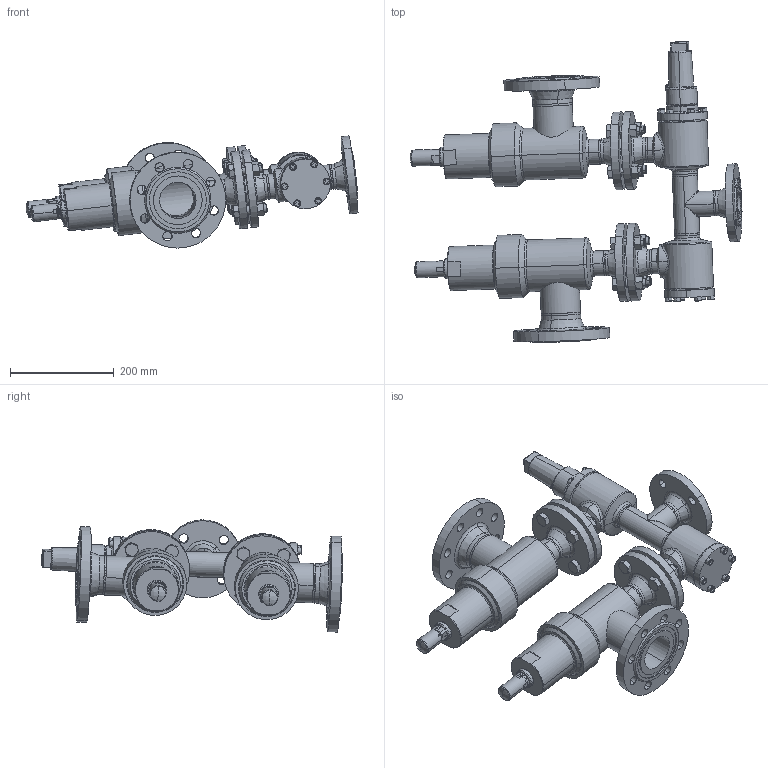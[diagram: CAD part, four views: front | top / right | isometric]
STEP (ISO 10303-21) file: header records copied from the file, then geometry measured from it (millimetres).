
FILE_DESCRIPTION (( 'STEP AP214' ), '1' );
FILE_NAME ('WVB-SVAA_1A5FL_DN40_DIN-FL.STEP', '2010-09-09T09:09:56', ( 'Eckhard Grams' ), ( 'AWP Kälte Klima Armaturen GmbH' ), 'SwSTEP 2.0', 'SolidWorks 2002296', '' );
FILE_SCHEMA (( 'AUTOMOTIVE_DESIGN' ));
Length unit declared in the file: millimetre
Products named in the file (31): WVB-SVAA_1A5FL_DN40_DIN-FL; SVAA 45620D14-DN40(65)_DIN; Gehkpl 45720E14-5030001; bead Geh,kpl 45720E14-1_Standard; Rohrstutzen-A 45700E13-5036004_DN40(65)_Standard; Flansch-DIN2635-Nut_PS40_DIN-Flansch-DN065_PS40-Nut; Geh 45700E14-5034004_DN40; bead Geh,kpl 45720E14-2_Standard; Flachdichtg-Alu-DN40; Haube 45700E14-5260003_DN40; Kappe SVA-SVU-ORV_DN10-40 (M27x1,5)_Standard; WVB23020D14-DN040_DIN-FL-N-F_PS40_Standard; WVB-R23000E15_Deck+Schr-DN40-50_Standard; Deckel23000E15-DN40-50_Standard; Kappe 16402-15_DN40-65 (M52x3)_Standard; AVB16300E15_Deck+Schr-DN40-50_Standard; Deckel16300E15-DN40-50_Standard; Zylinderschraube-DIN912_M 8x  25; Geh,kpl23020E14-DN040_DIN-FL-N-F_PS40_Standard; Flansch-DIN2635-Nut_PS40_DIN-Flansch-DN040_PS40-Nut; Geh,kpl23000E14-DN040_R1_PS40_Standard; bead23000-14-1_Standard; bead23000-14-2_Standard; T-Stück DIN2615_DN 40; Gehäuse23000E14-DN040_R1_PS40_Standard; Flansch-DIN2635-Feder_PS40_DIN-Flansch-DN040_PS40-Feder; bead23020-14-3_Standard; bead23020-14-2_Standard; bead23020-14-1_Standard; Sechskantschraube-DIN933_M16x 55; Sechskantmutter-DIN934_M16
Assembly tree (59 placements, depth 5):
  WVB-SVAA_1A5FL_DN40_DIN-FL
    Sechskantschraube-DIN933_M16x 55  x8
    Sechskantmutter-DIN934_M16  x8
    SVAA 45620D14-DN40(65)_DIN  x2
      Kappe SVA-SVU-ORV_DN10-40 (M27x1,5)_Standard
      Gehkpl 45720E14-5030001
        bead Geh,kpl 45720E14-1_Standard
        Geh 45700E14-5034004_DN40
        Flansch-DIN2635-Nut_PS40_DIN-Flansch-DN040_PS40-Nut
        bead Geh,kpl 45720E14-2_Standard
        Rohrstutzen-A 45700E13-5036004_DN40(65)_Standard
        Flansch-DIN2635-Nut_PS40_DIN-Flansch-DN065_PS40-Nut
      Flachdichtg-Alu-DN40
      Haube 45700E14-5260003_DN40
    WVB23020D14-DN040_DIN-FL-N-F_PS40_Standard
      WVB-R23000E15_Deck+Schr-DN40-50_Standard
        Zylinderschraube-DIN912_M 8x  25  x6
        Deckel23000E15-DN40-50_Standard
      AVB16300E15_Deck+Schr-DN40-50_Standard
        Zylinderschraube-DIN912_M 8x  25  x6
        Deckel16300E15-DN40-50_Standard
      Kappe 16402-15_DN40-65 (M52x3)_Standard
      Geh,kpl23020E14-DN040_DIN-FL-N-F_PS40_Standard
        bead23020-14-1_Standard
        Flansch-DIN2635-Nut_PS40_DIN-Flansch-DN040_PS40-Nut
        Flansch-DIN2635-Feder_PS40_DIN-Flansch-DN040_PS40-Feder  x2
        Geh,kpl23000E14-DN040_R1_PS40_Standard
          Gehäuse23000E14-DN040_R1_PS40_Standard  x2
          bead23000-14-1_Standard
          T-Stück DIN2615_DN 40
          bead23000-14-2_Standard
        bead23020-14-3_Standard
        bead23020-14-2_Standard
Bounding box: 641.31 x 581.27 x 216.69 mm (x, y, z)
Volume: 5632226.7 mm3; surface area: 1279577.9 mm2
Topology: 60 solids, 60 shells, 1539 faces, 3549 edges, 2181 vertices
Faces by surface type: cylinder 524, plane 425, cone 415, torus 111, bspline 56, sphere 8
Entity records: 50698 total; most frequent: CARTESIAN_POINT 33698, DIRECTION 3176, ORIENTED_EDGE 2984, EDGE_CURVE 1492, AXIS2_PLACEMENT_3D 1355, VERTEX_POINT 925, EDGE_LOOP 753, CIRCLE 698
